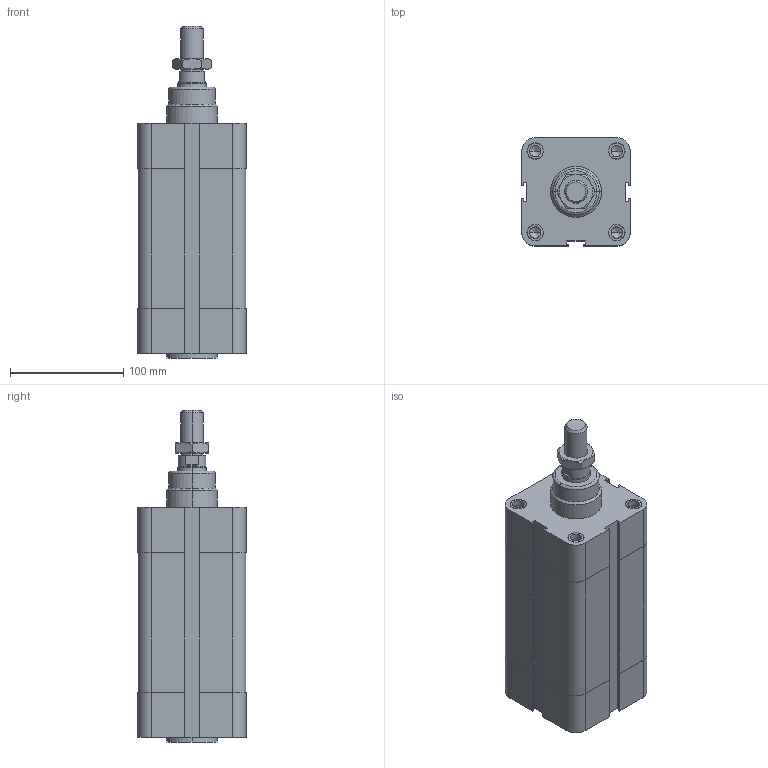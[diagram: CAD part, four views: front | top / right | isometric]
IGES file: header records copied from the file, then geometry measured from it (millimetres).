
Global section: file name: No Iges File Name specified; native system: AutoDesk Inventor R6.1; preprocessor: AutoDesk Inventor Iges Exporter R6.1; author: No Author specified; organization: No Organization specified; date: 20040107.171121; units: millimetre
Bounding box: 95.5 x 95.5 x 293 mm (x, y, z)
Volume: 1835216.2 mm3; surface area: 140727.1 mm2
Topology: 3 solids, 3 shells, 244 faces, 570 edges, 356 vertices
Faces by surface type: plane 83, bspline 67, cylinder 34, revolution 34, cone 24, torus 2
